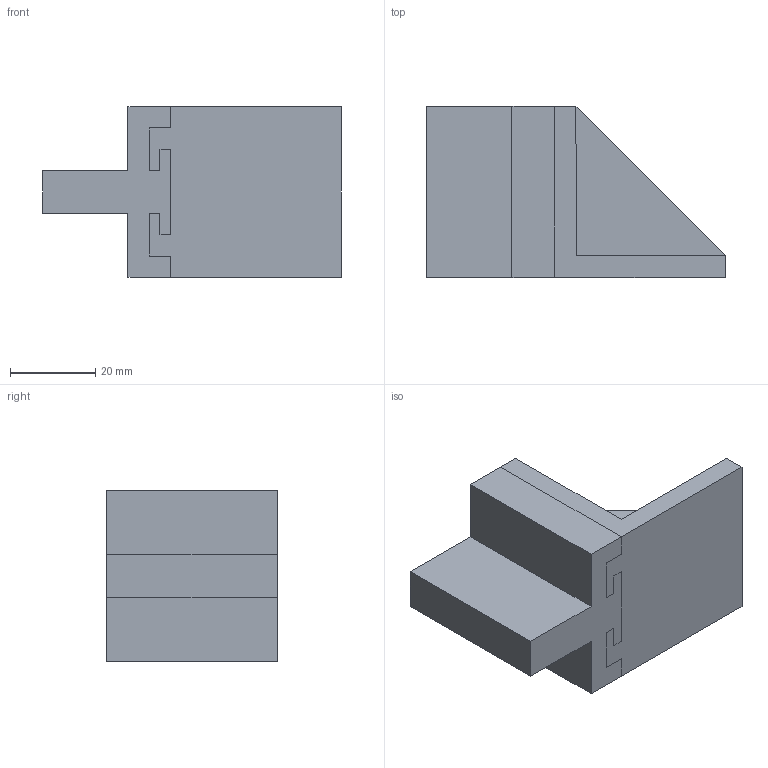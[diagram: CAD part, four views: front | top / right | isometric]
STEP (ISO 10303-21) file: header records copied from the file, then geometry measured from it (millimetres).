
FILE_DESCRIPTION(/* description */ (''),/* implementation_level */ '2;1');
FILE_NAME(/* name */ 'E:\OneDrive\Desktop\N5_GC_Sections\Task 6\ASSY_Task_6.stp',/* time_stamp */ '2020-06-08T14:35:15+01:00',/* author */ ('hunte'),/* organization */ (''),/* preprocessor_version */ 'ST-DEVELOPER v18.1',/* originating_system */ 'Autodesk Inventor 2020',/* authorisation */ '');
FILE_SCHEMA (('AUTOMOTIVE_DESIGN { 1 0 10303 214 3 1 1 }'));
Length unit declared in the file: millimetre
Products named in the file (3): ASSY_Task_6; PRT_A; PRT_B
Assembly tree (2 placements, depth 2):
  ASSY_Task_6
    PRT_A
    PRT_B
Bounding box: 70 x 40 x 40 mm (x, y, z)
Volume: 45125 mm3; surface area: 18170 mm2
Topology: 2 solids, 2 shells, 47 faces, 125 edges, 82 vertices
Faces by surface type: plane 47
Entity records: 1532 total; most frequent: CARTESIAN_POINT 259, ORIENTED_EDGE 250, DIRECTION 229, LINE 125, VECTOR 125, EDGE_CURVE 125, VERTEX_POINT 82, AXIS2_PLACEMENT_3D 52
